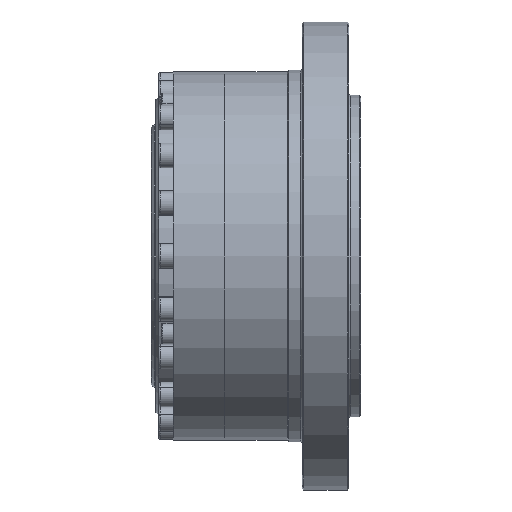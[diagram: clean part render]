
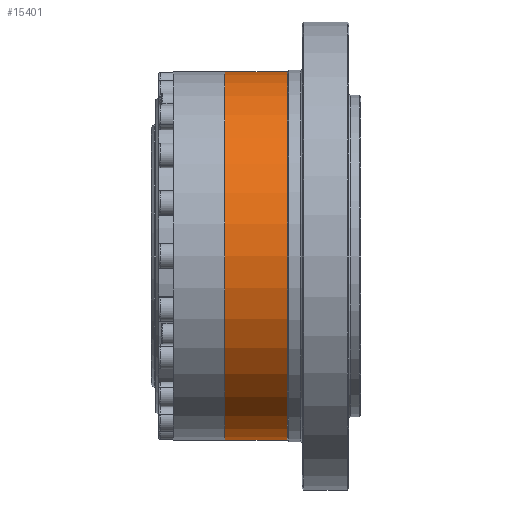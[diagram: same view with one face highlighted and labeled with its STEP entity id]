
A CAD part, front view. The second image highlights one B-rep face of the part: STEP entity #15401.
In plain terms, the highlighted cylindrical face has radius 63 mm (diameter 126 mm), a partial arc.
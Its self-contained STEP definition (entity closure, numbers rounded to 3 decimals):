
#23 = CIRCLE ( 'NONE', #19512, 63. ) ;
#258 = VERTEX_POINT ( 'NONE', #3344 ) ;
#1526 = LINE ( 'NONE', #11089, #11107 ) ;
#1979 = VERTEX_POINT ( 'NONE', #7215 ) ;
#2465 = LINE ( 'NONE', #22926, #7244 ) ;
#3344 = CARTESIAN_POINT ( 'NONE',  ( 27.911, 0., -63. ) ) ;
#3712 = EDGE_CURVE ( 'NONE', #258, #1979, #2465, .T. ) ;
#4013 = CARTESIAN_POINT ( 'NONE',  ( 80.512, 0., 0. ) ) ;
#4115 = CARTESIAN_POINT ( 'NONE',  ( 49.411, 0., 63. ) ) ;
#4307 = EDGE_CURVE ( 'NONE', #8426, #5020, #1526, .T. ) ;
#4682 = CYLINDRICAL_SURFACE ( 'NONE', #23679, 63. ) ;
#5020 = VERTEX_POINT ( 'NONE', #4115 ) ;
#6063 = CARTESIAN_POINT ( 'NONE',  ( 49.411, 0., 0. ) ) ;
#6680 = DIRECTION ( 'NONE',  ( 1., 0., 0. ) ) ;
#7215 = CARTESIAN_POINT ( 'NONE',  ( 49.411, 0., -63. ) ) ;
#7216 = ORIENTED_EDGE ( 'NONE', *, *, #3712, .T. ) ;
#7244 = VECTOR ( 'NONE', #23022, 1000. ) ;
#7769 = ORIENTED_EDGE ( 'NONE', *, *, #11634, .T. ) ;
#8104 = DIRECTION ( 'NONE',  ( 0., 0., -1. ) ) ;
#8426 = VERTEX_POINT ( 'NONE', #24362 ) ;
#11089 = CARTESIAN_POINT ( 'NONE',  ( 80.512, 0., 63. ) ) ;
#11107 = VECTOR ( 'NONE', #19138, 1000. ) ;
#11442 = EDGE_CURVE ( 'NONE', #5020, #1979, #20109, .T. ) ;
#11634 = EDGE_CURVE ( 'NONE', #8426, #258, #23, .T. ) ;
#12795 = ORIENTED_EDGE ( 'NONE', *, *, #4307, .F. ) ;
#15401 = ADVANCED_FACE ( 'NONE', ( #26353 ), #4682, .T. ) ;
#16202 = DIRECTION ( 'NONE',  ( 1., 0., 0. ) ) ;
#18850 = CARTESIAN_POINT ( 'NONE',  ( 27.911, 0., 0. ) ) ;
#19138 = DIRECTION ( 'NONE',  ( 1., 0., 0. ) ) ;
#19512 = AXIS2_PLACEMENT_3D ( 'NONE', #18850, #6680, #20909 ) ;
#20105 = DIRECTION ( 'NONE',  ( 0., 0., -1. ) ) ;
#20109 = CIRCLE ( 'NONE', #21393, 63. ) ;
#20200 = ORIENTED_EDGE ( 'NONE', *, *, #11442, .F. ) ;
#20296 = DIRECTION ( 'NONE',  ( 1., 0., 0. ) ) ;
#20909 = DIRECTION ( 'NONE',  ( 0., 0., -1. ) ) ;
#21393 = AXIS2_PLACEMENT_3D ( 'NONE', #6063, #20296, #8104 ) ;
#22926 = CARTESIAN_POINT ( 'NONE',  ( 80.512, 0., -63. ) ) ;
#23022 = DIRECTION ( 'NONE',  ( 1., 0., 0. ) ) ;
#23158 = EDGE_LOOP ( 'NONE', ( #12795, #7769, #7216, #20200 ) ) ;
#23679 = AXIS2_PLACEMENT_3D ( 'NONE', #4013, #16202, #20105 ) ;
#24362 = CARTESIAN_POINT ( 'NONE',  ( 27.911, 0., 63. ) ) ;
#26353 = FACE_OUTER_BOUND ( 'NONE', #23158, .T. ) ;
